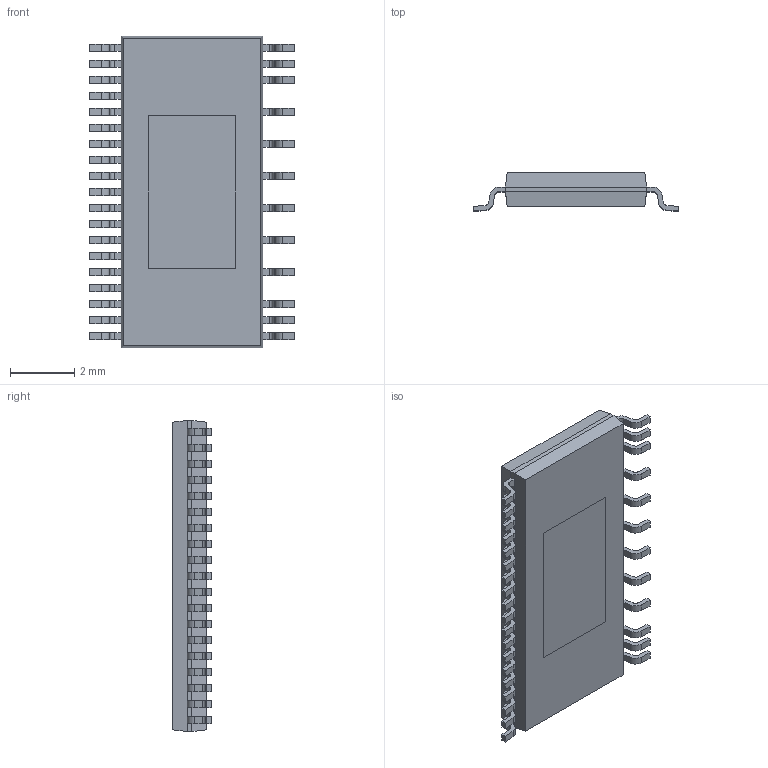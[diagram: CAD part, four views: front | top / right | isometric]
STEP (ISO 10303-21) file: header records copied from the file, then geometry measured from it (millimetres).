
FILE_DESCRIPTION (( 'STEP AP214' ), '1' );
FILE_NAME ('LT8705AEFE#PBF.STEP', '2022-09-13T17:08:33', ( '' ), ( '' ), 'SwSTEP 2.0', 'SolidWorks 2017', '' );
FILE_SCHEMA (( 'AUTOMOTIVE_DESIGN' ));
Length unit declared in the file: millimetre
Products named in the file (1): LT8705AEFE#PBF
Bounding box: 6.4 x 1.2 x 9.7 mm (x, y, z)
Volume: 45.5 mm3; surface area: 175.1 mm2
Topology: 34 solids, 34 shells, 466 faces, 1180 edges, 784 vertices
Faces by surface type: plane 338, cylinder 128
Entity records: 14287 total; most frequent: CARTESIAN_POINT 2431, DIRECTION 2370, ORIENTED_EDGE 2360, EDGE_CURVE 1180, LINE 924, VECTOR 924, VERTEX_POINT 784, AXIS2_PLACEMENT_3D 723
